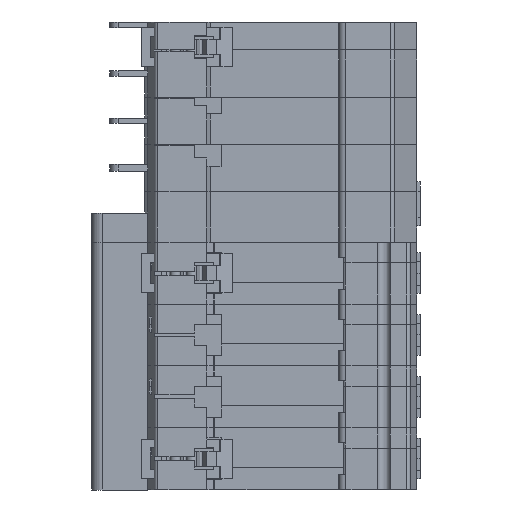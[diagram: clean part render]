
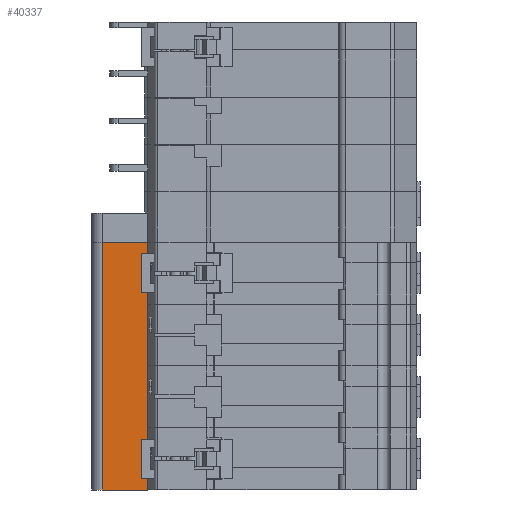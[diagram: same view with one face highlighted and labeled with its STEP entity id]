
A CAD part, front view. The second image highlights one B-rep face of the part: STEP entity #40337.
In plain terms, the highlighted planar face has unit normal (0, -1, 0) as drawn and (-1, 0, 0) by its records, which use the part's own axes.
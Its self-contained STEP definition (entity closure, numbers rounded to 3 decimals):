
#1892 = DIRECTION ( 'NONE',  ( 0., 1., 0. ) ) ;
#3392 = VERTEX_POINT ( 'NONE', #13803 ) ;
#5641 = CARTESIAN_POINT ( 'NONE',  ( -12.5, 13., 0. ) ) ;
#5973 = CARTESIAN_POINT ( 'NONE',  ( -12.5, 0., 70.9 ) ) ;
#6248 = CARTESIAN_POINT ( 'NONE',  ( -12.5, 13., 77.9 ) ) ;
#7915 = EDGE_CURVE ( 'NONE', #27781, #42276, #31209, .T. ) ;
#11147 = PLANE ( 'NONE',  #19095 ) ;
#11485 = DIRECTION ( 'NONE',  ( 0., 0., -1. ) ) ;
#12994 = LINE ( 'NONE', #41958, #18196 ) ;
#13803 = CARTESIAN_POINT ( 'NONE',  ( -12.5, 13., 70.9 ) ) ;
#15274 = ORIENTED_EDGE ( 'NONE', *, *, #16669, .T. ) ;
#16172 = DIRECTION ( 'NONE',  ( 0., 0., -1. ) ) ;
#16669 = EDGE_CURVE ( 'NONE', #3392, #24838, #22520, .T. ) ;
#17495 = CARTESIAN_POINT ( 'NONE',  ( -12.5, 16., 77.9 ) ) ;
#18089 = CARTESIAN_POINT ( 'NONE',  ( -12.5, 0., 0. ) ) ;
#18196 = VECTOR ( 'NONE', #1892, 1000. ) ;
#18469 = EDGE_CURVE ( 'NONE', #27781, #3392, #12994, .T. ) ;
#19095 = AXIS2_PLACEMENT_3D ( 'NONE', #17495, #20534, #37126 ) ;
#20534 = DIRECTION ( 'NONE',  ( 1., 0., 0. ) ) ;
#22520 = LINE ( 'NONE', #6248, #29230 ) ;
#24756 = LINE ( 'NONE', #33516, #28354 ) ;
#24838 = VERTEX_POINT ( 'NONE', #5641 ) ;
#26091 = FACE_OUTER_BOUND ( 'NONE', #31358, .T. ) ;
#27781 = VERTEX_POINT ( 'NONE', #5973 ) ;
#28354 = VECTOR ( 'NONE', #29922, 1000. ) ;
#29230 = VECTOR ( 'NONE', #16172, 1000. ) ;
#29922 = DIRECTION ( 'NONE',  ( 0., -1., 0. ) ) ;
#31209 = LINE ( 'NONE', #31283, #41988 ) ;
#31283 = CARTESIAN_POINT ( 'NONE',  ( -12.5, 0., 77.9 ) ) ;
#31358 = EDGE_LOOP ( 'NONE', ( #31901, #15274, #33530, #35170 ) ) ;
#31565 = EDGE_CURVE ( 'NONE', #24838, #42276, #24756, .T. ) ;
#31901 = ORIENTED_EDGE ( 'NONE', *, *, #18469, .T. ) ;
#33516 = CARTESIAN_POINT ( 'NONE',  ( -12.5, 16., 0. ) ) ;
#33530 = ORIENTED_EDGE ( 'NONE', *, *, #31565, .T. ) ;
#35170 = ORIENTED_EDGE ( 'NONE', *, *, #7915, .F. ) ;
#37126 = DIRECTION ( 'NONE',  ( 0., 1., 0. ) ) ;
#40337 = ADVANCED_FACE ( 'NONE', ( #26091 ), #11147, .F. ) ;
#41958 = CARTESIAN_POINT ( 'NONE',  ( -12.5, 16., 70.9 ) ) ;
#41988 = VECTOR ( 'NONE', #11485, 1000. ) ;
#42276 = VERTEX_POINT ( 'NONE', #18089 ) ;
